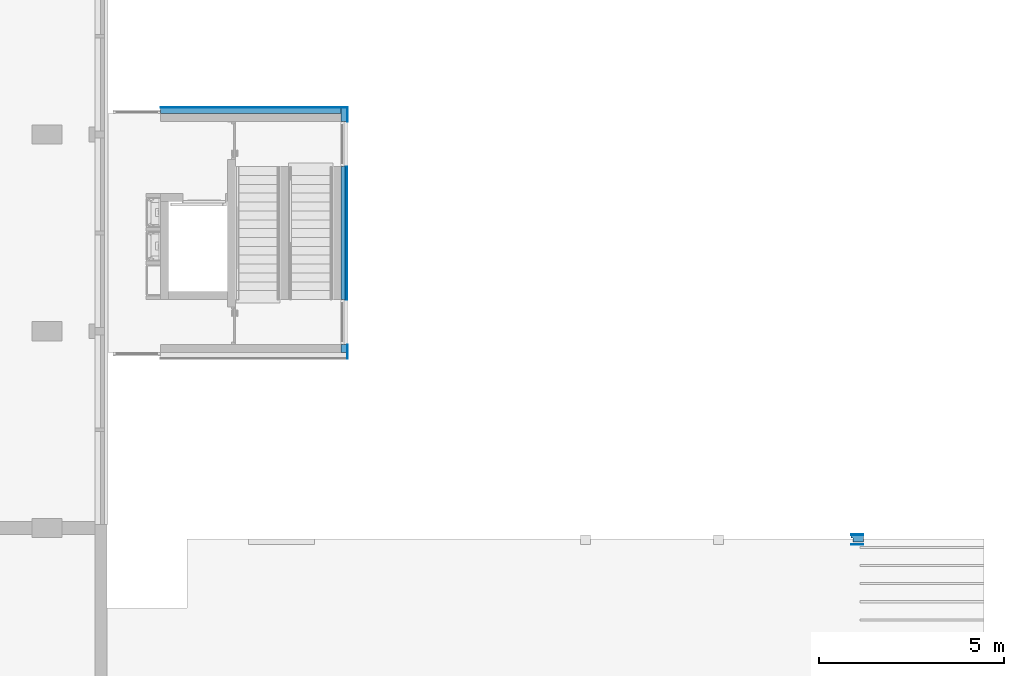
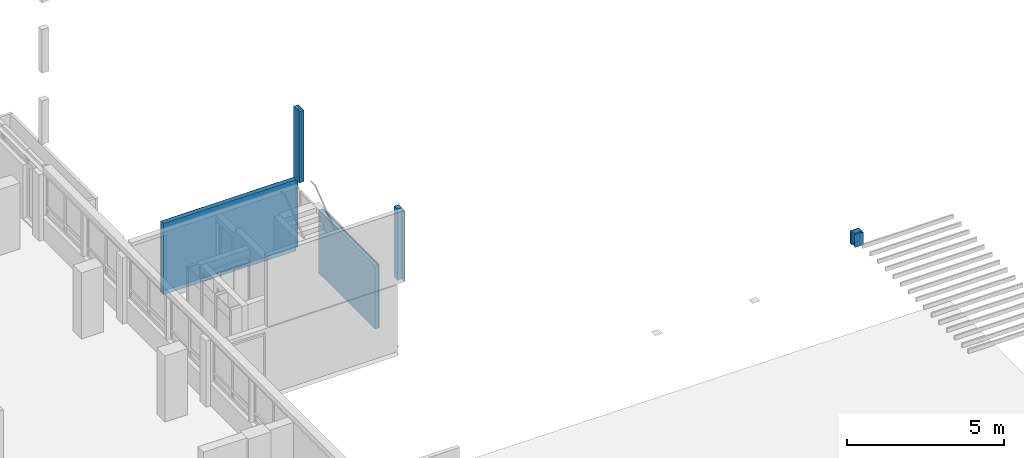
# One storey, part 15 of 22: 17 building element parts, 5 elements without a shape of their own.
"""IFC2X3 building model written with IfcOpenShell, lengths in millimetres."""

from ifc_helpers import new_model, entity, si_unit, converted_unit, derived_unit, money_unit, direction, frame, origin_with_axes, place, context, subcontext, project, spatial, faceted_brep, material, type_object, element, aggregate, save


model = new_model("IFC2X3")

# Units and contexts
model_context = context("Model", 3, precision=0.01, world=origin_with_axes(), true_north=direction((0.0, 1.0)))
body_context = subcontext(model_context, "Body", "Model", "MODEL_VIEW")
ifc_project = project(units=[si_unit("LENGTHUNIT", "METRE", prefix="MILLI"), si_unit("AREAUNIT", "SQUARE_METRE"), si_unit("VOLUMEUNIT", "CUBIC_METRE"), converted_unit("PLANEANGLEUNIT", "DEGREE", entity("IfcPlaneAngleMeasure", 0.0174532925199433), si_unit("PLANEANGLEUNIT", "RADIAN"), dimensions=[0, 0, 0, 0, 0, 0, 0]), money_unit("EUR"), converted_unit("TIMEUNIT", "Year", entity("IfcTimeMeasure", 31557600.0), si_unit("TIMEUNIT", "SECOND"), dimensions=[0, 0, 1, 0, 0, 0, 0]), si_unit("MASSUNIT", "GRAM", prefix="KILO"), si_unit("THERMODYNAMICTEMPERATUREUNIT", "DEGREE_CELSIUS"), si_unit("LUMINOUSINTENSITYUNIT", "LUMEN"), si_unit("ENERGYUNIT", "JOULE", prefix="MEGA"), derived_unit("THERMALCONDUCTANCEUNIT", [(si_unit("POWERUNIT", "WATT"), 1), (si_unit("LENGTHUNIT", "METRE"), -1), (si_unit("THERMODYNAMICTEMPERATUREUNIT", "KELVIN"), -1)]), derived_unit("SPECIFICHEATCAPACITYUNIT", [(si_unit("ENERGYUNIT", "JOULE"), 1), (si_unit("MASSUNIT", "GRAM", prefix="KILO"), -1), (si_unit("THERMODYNAMICTEMPERATUREUNIT", "KELVIN"), -1)]), derived_unit("MASSDENSITYUNIT", [(si_unit("MASSUNIT", "GRAM", prefix="KILO"), 1), (si_unit("VOLUMEUNIT", "CUBIC_METRE"), -1)])], contexts=[model_context])

# Site, building, storey
site_placement = place(None, origin_with_axes())
site = spatial("IfcSite", under=ifc_project, at=site_placement, Name="Site", CompositionType="ELEMENT")
building_placement = place(site_placement, origin_with_axes())
building = spatial("IfcBuilding", under=site, at=building_placement, Name="Naam gebouw", CompositionType="ELEMENT")
storey_placement = place(building_placement, frame((0.0, 0.0, 8690.0), z_axis=(0.0, 0.0, 1.0), x_axis=(1.0, 0.0, 0.0)))
storey = spatial("IfcBuildingStorey", under=building, at=storey_placement, Name="2e verdieping V", CompositionType="ELEMENT", Elevation=8690.0)

# Wall, building element parts
wall_type_1 = type_object("IfcWallType", Name="Basic Wall:41_WA_houten delen vert trappenhuis", PredefinedType="STANDARD")
wall_1_placement = place(storey_placement, frame((36664.0000000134, 34145.91242629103, 0.0), z_axis=(0.0, 0.0, 1.0), x_axis=(0.0, 1.0, 0.0)))
wall_1 = element("IfcWall", 1, at=wall_1_placement, inside=storey, type_object=wall_type_1, Name="Basic Wall:41_WA_houten delen vert trappenhuis")
ifc_material_1 = material(Name="luchtspouw")
building_element_part_1_placement = place(wall_1_placement, origin_with_axes())
building_element_part_1 = element("IfcBuildingElementPart", 2, at=building_element_part_1_placement, material=ifc_material_1, Name="luchtspouw", context=body_context, shape_type="Brep", body=[
    faceted_brep([(3599.999999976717, -44.00000000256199, 0.0), (3599.999999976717, -66.00000000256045, 0.0), (0.0, -66.00000000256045, 0.0), (0.0, -44.00000000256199, 0.0), (3599.999999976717, -44.00000000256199, 2470.0), (3599.999999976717, -66.00000000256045, 2470.0), (0.0, -66.00000000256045, 2470.0), (0.0, -44.00000000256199, 2470.0)], [[[0, 1, 2, 3]], [[0, 4, 5, 1]], [[1, 5, 6, 2]], [[3, 2, 6, 7]], [[4, 0, 3, 7]], [[5, 4, 7, 6]]]),
])
building_element_part_2_placement = place(wall_1_placement, origin_with_axes())
building_element_part_2 = element("IfcBuildingElementPart", 3, at=building_element_part_2_placement, material=ifc_material_1, Name="luchtspouw", context=body_context, shape_type="Brep", body=[
    faceted_brep([(3599.999999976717, -16.0000000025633, 0.0), (3599.999999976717, -44.00000000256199, 0.0), (0.0, -44.00000000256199, 0.0), (0.0, -16.0000000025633, 0.0), (3599.999999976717, -16.0000000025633, 2470.0), (3599.999999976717, -44.00000000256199, 2470.0), (0.0, -44.00000000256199, 2470.0), (0.0, -16.0000000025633, 2470.0)], [[[0, 1, 2, 3]], [[0, 4, 5, 1]], [[1, 5, 6, 2]], [[3, 2, 6, 7]], [[4, 0, 3, 7]], [[5, 4, 7, 6]]]),
])
ifc_material_2 = material(Name="Houten delen vert")
building_element_part_3_placement = place(wall_1_placement, origin_with_axes())
building_element_part_3 = element("IfcBuildingElementPart", 4, at=building_element_part_3_placement, material=ifc_material_2, Name="Houten delen vert", context=body_context, shape_type="Brep", body=[
    faceted_brep([(3599.999999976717, -66.00000000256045, 0.0), (3599.999999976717, -84.00000000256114, 0.0), (0.0, -84.00000000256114, 0.0), (0.0, -66.00000000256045, 0.0), (3599.999999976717, -66.00000000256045, 2470.0), (3599.999999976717, -84.00000000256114, 2470.0), (0.0, -84.00000000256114, 2470.0), (0.0, -66.00000000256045, 2470.0)], [[[0, 1, 2, 3]], [[0, 4, 5, 1]], [[1, 5, 6, 2]], [[3, 2, 6, 7]], [[4, 0, 3, 7]], [[5, 4, 7, 6]]]),
])
ifc_material_3 = material(Name="isolatie")
building_element_part_4_placement = place(wall_1_placement, origin_with_axes())
building_element_part_4 = element("IfcBuildingElementPart", 5, at=building_element_part_4_placement, material=ifc_material_3, Name="isolatie", context=body_context, shape_type="Brep", body=[
    faceted_brep([(3599.999999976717, 83.99999999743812, 0.0), (3599.999999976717, -16.0000000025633, 0.0), (0.0, -16.0000000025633, 0.0), (0.0, 83.99999999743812, 0.0), (3599.999999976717, 83.99999999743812, 2470.0), (3599.999999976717, -16.0000000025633, 2470.0), (0.0, -16.0000000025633, 2470.0), (0.0, 83.99999999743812, 2470.0)], [[[0, 1, 2, 3]], [[0, 4, 5, 1]], [[1, 5, 6, 2]], [[3, 2, 6, 7]], [[4, 0, 3, 7]], [[5, 4, 7, 6]]]),
])
aggregate(wall_1, [building_element_part_1, building_element_part_2, building_element_part_3, building_element_part_4])

wall_type_2 = type_object("IfcWallType", Name="Basic Wall:41_WA_stucwerk op iso 170mm", PredefinedType="STANDARD")
wall_2_placement = place(storey_placement, frame((36665.50000005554, 39265.41242626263, 2770.00000000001), z_axis=(0.0, 0.0, 1.0), x_axis=(0.0, -1.0, 0.0)))
wall_2 = element("IfcWall", 6, at=wall_2_placement, inside=storey, type_object=wall_type_2, Name="Basic Wall:41_WA_stucwerk op iso 170mm")
ifc_material_4 = material(Name="stucwerk - gevel gebouw V RAL 7044")
building_element_part_5_placement = place(wall_2_placement, origin_with_axes())
building_element_part_5 = element("IfcBuildingElementPart", 7, at=building_element_part_5_placement, material=ifc_material_4, Name="stucwerk - gevel gebouw V RAL 7044", context=body_context, shape_type="Brep", body=[
    faceted_brep([(-84.5000000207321, 84.49999994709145, 0.0), (299.4999999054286, 84.49999998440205, 0.0), (299.4999999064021, 74.49999998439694, 0.0), (-84.50000001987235, 74.49999994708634, 0.0), (-84.5000000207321, 84.49999994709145, 2770.000000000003), (299.4999999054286, 84.49999998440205, 2770.000000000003), (299.4999999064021, 74.49999998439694, 2770.000000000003), (-84.50000001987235, 74.49999994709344, 2770.000000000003)], [[[0, 1, 2, 3]], [[4, 5, 1, 0]], [[2, 1, 5, 6]], [[3, 2, 6, 7]], [[4, 0, 3, 7]], [[7, 6, 5, 4]]]),
])
ifc_material_5 = material(Name="Verflaag ral 7044  Zijdengrijs Isostuc")
building_element_part_6_placement = place(wall_2_placement, origin_with_axes())
building_element_part_6 = element("IfcBuildingElementPart", 8, at=building_element_part_6_placement, material=ifc_material_5, Name="Verflaag ral 7044  Zijdengrijs Isostuc", context=body_context, shape_type="Brep", body=[
    faceted_brep([(-85.50000002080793, 85.49999994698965, 0.0), (299.4999999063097, 85.49999998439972, 0.0), (299.4999999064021, 84.49999998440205, 0.0), (-85.50000002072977, 84.49999994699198, 0.0), (-85.50000002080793, 85.49999994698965, 2770.000000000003), (299.4999999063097, 85.49999998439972, 2770.000000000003), (299.4999999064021, 84.49999998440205, 2770.000000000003), (-85.50000002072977, 84.49999994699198, 2770.000000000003)], [[[0, 1, 2, 3]], [[4, 5, 1, 0]], [[2, 1, 5, 6]], [[3, 2, 6, 7]], [[4, 0, 3, 7]], [[7, 6, 5, 4]]]),
])
ifc_material_6 = material(Name="isolatie_080_1-100")
building_element_part_7_placement = place(wall_2_placement, origin_with_axes())
building_element_part_7 = element("IfcBuildingElementPart", 9, at=building_element_part_7_placement, material=ifc_material_6, Name="isolatie_080_1-100", context=body_context, shape_type="Brep", body=[
    faceted_brep([(-74.50000001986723, 74.49999994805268, 0.0), (299.4999998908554, 74.49999998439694, 0.0), (299.4999999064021, -85.50000001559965, 0.0), (-74.50000000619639, -85.50000005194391, 0.0), (-74.50000001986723, 74.49999994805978, 2770.000000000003), (299.4999998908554, 74.49999998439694, 2770.000000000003), (299.4999999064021, -85.50000001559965, 2770.000000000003), (-74.50000000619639, -85.50000005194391, 2770.000000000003)], [[[0, 1, 2, 3]], [[4, 5, 1, 0]], [[2, 1, 5, 6]], [[3, 2, 6, 7]], [[4, 0, 3, 7]], [[7, 6, 5, 4]]]),
])
aggregate(wall_2, [building_element_part_5, building_element_part_6, building_element_part_7])

wall_3_placement = place(storey_placement, frame((36665.50000002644, 32925.91242631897, 2770.00000000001), z_axis=(0.0, 0.0, 1.0), x_axis=(0.0, -1.0, 0.0)))
wall_3 = element("IfcWall", 10, at=wall_3_placement, inside=storey, type_object=wall_type_2, Name="Basic Wall:41_WA_stucwerk op iso 170mm")
building_element_part_8_placement = place(wall_3_placement, origin_with_axes())
building_element_part_8 = element("IfcBuildingElementPart", 11, at=building_element_part_8_placement, material=ifc_material_5, Name="Verflaag ral 7044  Zijdengrijs Isostuc", context=body_context, shape_type="Brep", body=[
    faceted_brep([(384.0000000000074, 85.50000005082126, 0.0), (384.000000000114, 84.50000005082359, 0.0), (-8.213874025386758e-09, 84.50000001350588, 0.0), (-8.306244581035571e-09, 85.50000001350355, 0.0), (384.0000000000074, 85.50000005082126, 2770.000000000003), (384.000000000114, 84.50000005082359, 2770.000000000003), (-8.213874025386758e-09, 84.50000001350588, 2770.000000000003), (-8.306244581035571e-09, 85.50000001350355, 2770.000000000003)], [[[0, 1, 2, 3]], [[1, 0, 4, 5]], [[1, 5, 6, 2]], [[7, 3, 2, 6]], [[4, 0, 3, 7]], [[5, 4, 7, 6]]]),
])
building_element_part_9_placement = place(wall_3_placement, origin_with_axes())
building_element_part_9 = element("IfcBuildingElementPart", 12, at=building_element_part_9_placement, material=ifc_material_4, Name="stucwerk - gevel gebouw V RAL 7044", context=body_context, shape_type="Brep", body=[
    faceted_brep([(374.0000000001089, 84.50000004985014, 0.0), (374.0000000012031, 74.50000004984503, 0.0), (-7.240430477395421e-09, 74.50000001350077, 0.0), (-8.213874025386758e-09, 84.50000001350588, 0.0), (374.0000000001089, 84.50000004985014, 2770.000000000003), (374.0000000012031, 74.50000004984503, 2770.000000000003), (-7.240430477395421e-09, 74.50000001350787, 2770.000000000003), (-8.213874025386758e-09, 84.50000001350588, 2770.000000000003)], [[[0, 1, 2, 3]], [[1, 0, 4, 5]], [[1, 5, 6, 2]], [[7, 3, 2, 6]], [[4, 0, 3, 7]], [[5, 4, 7, 6]]]),
])
building_element_part_10_placement = place(wall_3_placement, origin_with_axes())
building_element_part_10 = element("IfcBuildingElementPart", 13, at=building_element_part_10_placement, material=ifc_material_6, Name="isolatie_080_1-100", context=body_context, shape_type="Brep", body=[
    faceted_brep([(214.0000000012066, 74.50000003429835, 0.0), (214.000000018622, -85.49999996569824, 0.0), (8.306244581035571e-09, -85.49999998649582, 0.0), (-7.240430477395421e-09, 74.50000001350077, 0.0), (214.0000000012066, 74.50000003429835, 2770.000000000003), (214.000000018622, -85.49999996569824, 2770.000000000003), (8.306244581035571e-09, -85.49999998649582, 2770.000000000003), (-7.240430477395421e-09, 74.50000001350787, 2770.000000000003)], [[[0, 1, 2, 3]], [[1, 0, 4, 5]], [[1, 5, 6, 2]], [[7, 3, 2, 6]], [[4, 0, 3, 7]], [[5, 4, 7, 6]]]),
])
aggregate(wall_3, [building_element_part_8, building_element_part_9, building_element_part_10])

wall_4_placement = place(storey_placement, frame((31685.01028263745, 39265.41242632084, 0.0), z_axis=(0.0, 0.0, 1.0), x_axis=(1.0, 0.0, 0.0)))
wall_4 = element("IfcWall", 14, at=wall_4_placement, inside=storey, type_object=wall_type_2, Name="Basic Wall:41_WA_stucwerk op iso 170mm")
building_element_part_11_placement = place(wall_4_placement, origin_with_axes())
building_element_part_11 = element("IfcBuildingElementPart", 15, at=building_element_part_11_placement, material=ifc_material_5, Name="Verflaag ral 7044  Zijdengrijs Isostuc", context=body_context, shape_type="Brep", body=[
    faceted_brep([(5064.989717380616, 84.5000000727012, 0.0), (-9.876544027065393e-10, 84.50000001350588, 0.0), (-9.983125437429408e-10, 85.50000001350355, 0.0), (5064.989717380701, 85.50000007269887, 0.0), (5064.989717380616, 84.5000000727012, 2770.000000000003), (-9.876544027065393e-10, 84.50000001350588, 2770.000000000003), (-9.983125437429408e-10, 85.50000001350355, 2770.000000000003), (5064.989717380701, 85.50000007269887, 2770.000000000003)], [[[0, 1, 2, 3]], [[4, 5, 1, 0]], [[2, 1, 5, 6]], [[3, 2, 6, 7]], [[3, 7, 4, 0]], [[7, 6, 5, 4]]]),
])
building_element_part_12_placement = place(wall_4_placement, origin_with_axes())
building_element_part_12 = element("IfcBuildingElementPart", 16, at=building_element_part_12_placement, material=ifc_material_4, Name="stucwerk - gevel gebouw V RAL 7044", context=body_context, shape_type="Brep", body=[
    faceted_brep([(5054.989717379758, 74.5000000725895, 0.0), (-8.704148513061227e-10, 74.50000001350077, 0.0), (-9.876544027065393e-10, 84.50000001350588, 0.0), (5054.989717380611, 84.50000007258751, 0.0), (5054.989717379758, 74.5000000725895, 2770.000000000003), (-8.704148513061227e-10, 74.50000001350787, 2770.000000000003), (-9.876544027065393e-10, 84.50000001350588, 2770.000000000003), (5054.989717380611, 84.50000007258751, 2770.000000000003)], [[[0, 1, 2, 3]], [[4, 5, 1, 0]], [[2, 1, 5, 6]], [[3, 2, 6, 7]], [[3, 7, 4, 0]], [[7, 6, 5, 4]]]),
])
building_element_part_13_placement = place(wall_4_placement, origin_with_axes())
building_element_part_13 = element("IfcBuildingElementPart", 17, at=building_element_part_13_placement, material=ifc_material_6, Name="isolatie_080_1-100", context=body_context, shape_type="Brep", body=[
    faceted_brep([(4894.989717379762, 74.50000007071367, 0.0), (4894.989717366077, -85.49999992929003, 0.0), (9.983125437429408e-10, -85.49999998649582, 0.0), (-8.704148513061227e-10, 74.50000001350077, 0.0), (4894.989717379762, 74.50000007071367, 2770.000000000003), (4894.989717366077, -85.49999992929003, 2770.000000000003), (9.983125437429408e-10, -85.49999998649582, 2770.000000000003), (-8.704148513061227e-10, 74.50000001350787, 2770.000000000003)], [[[0, 1, 2, 3]], [[1, 0, 4, 5]], [[1, 5, 6, 2]], [[7, 3, 2, 6]], [[4, 0, 3, 7]], [[5, 4, 7, 6]]]),
])
aggregate(wall_4, [building_element_part_11, building_element_part_12, building_element_part_13])

wall_type_3 = type_object("IfcWallType", Name="Gevel decowall-hsb 278", PredefinedType="NOTDEFINED")
wall_5_placement = place(storey_placement, frame((50729.99999999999, 27505.91242510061, 2360.000000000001), z_axis=(0.0, 0.0, 1.0), x_axis=(-1.0, 0.0, 0.0)))
wall_5 = element("IfcWall", 18, at=wall_5_placement, inside=storey, type_object=wall_type_3, Name="_Wand-x")
ifc_material_7 = material(Name="Metaal - Staal AFW")
building_element_part_14_placement = place(wall_5_placement, origin_with_axes())
building_element_part_14 = element("IfcBuildingElementPart", 19, at=building_element_part_14_placement, material=ifc_material_7, Name="Metaal - Staal AFW", context=body_context, shape_type="Brep", body=[
    faceted_brep([(329.9999999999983, -4.000000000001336, 500.0), (329.9999999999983, 0.0, 500.0), (0.0, 0.0, 500.0), (0.0, -4.000000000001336, 500.0), (329.9999999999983, -4.000000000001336, 0.0), (329.9999999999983, 0.0, 0.0), (0.0, 0.0, 0.0), (0.0, -4.000000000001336, 0.0)], [[[0, 1, 2, 3]], [[0, 4, 5, 1]], [[1, 5, 6, 2]], [[3, 2, 6, 7]], [[4, 0, 3, 7]], [[5, 4, 7, 6]]]),
])
ifc_material_8 = material(Name="Isolatie - Steenwol zacht")
building_element_part_15_placement = place(wall_5_placement, origin_with_axes())
building_element_part_15 = element("IfcBuildingElementPart", 20, at=building_element_part_15_placement, material=ifc_material_8, Name="Isolatie - Steenwol zacht", context=body_context, shape_type="Brep", body=[
    faceted_brep([(283.9999999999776, -175.9999999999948, 500.0), (283.9999999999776, -70.00000000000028, 500.0), (0.0, -70.00000000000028, 500.0), (0.0, -248.0000000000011, 500.0), (329.9999999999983, -248.0000000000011, 500.0), (329.9999999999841, -175.9999999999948, 500.0), (283.9999999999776, -175.9999999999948, 0.0), (283.9999999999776, -70.00000000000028, 0.0), (0.0, -70.00000000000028, 0.0), (0.0, -248.0000000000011, 0.0), (329.9999999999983, -248.0000000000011, 0.0), (329.9999999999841, -175.9999999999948, 0.0)], [[[0, 1, 2, 3, 4, 5]], [[1, 0, 6, 7]], [[1, 7, 8, 2]], [[9, 3, 2, 8]], [[9, 10, 4, 3]], [[11, 5, 4, 10]], [[0, 5, 11, 6]], [[6, 11, 10, 9, 8, 7]]]),
])
ifc_material_9 = material(Name="Hout - Multiplex")
building_element_part_16_placement = place(wall_5_placement, origin_with_axes())
building_element_part_16 = element("IfcBuildingElementPart", 21, at=building_element_part_16_placement, material=ifc_material_9, Name="Hout - Multiplex", context=body_context, shape_type="Brep", body=[
    faceted_brep([(0.0, -265.9999999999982, 500.0), (329.9999999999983, -265.9999999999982, 500.0), (329.9999999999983, -248.0000000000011, 500.0), (0.0, -248.0000000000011, 500.0), (0.0, -266.0000000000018, 0.0), (329.9999999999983, -266.0000000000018, 0.0), (329.9999999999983, -248.0000000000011, 0.0), (0.0, -248.0000000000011, 0.0)], [[[0, 1, 2, 3]], [[4, 5, 1, 0]], [[2, 1, 5, 6]], [[3, 2, 6, 7]], [[4, 0, 3, 7]], [[7, 6, 5, 4]]]),
])
ifc_material_10 = material(Name="Gipsplaat")
building_element_part_17_placement = place(wall_5_placement, origin_with_axes())
building_element_part_17 = element("IfcBuildingElementPart", 22, at=building_element_part_17_placement, material=ifc_material_10, Name="Gipsplaat", context=body_context, shape_type="Brep", body=[
    faceted_brep([(0.0, -273.9999999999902, 0.0), (0.0, -273.9999999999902, 500.0), (0.0, -265.9999999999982, 500.0), (0.0, -266.0000000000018, 0.0), (329.9999999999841, -273.9999999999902, 500.0), (329.9999999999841, -273.9999999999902, 0.0), (329.9999999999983, -265.9999999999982, 500.0), (329.9999999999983, -266.0000000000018, 0.0)], [[[0, 1, 2, 3]], [[4, 1, 0, 5]], [[1, 4, 6, 2]], [[2, 6, 7, 3]], [[5, 0, 3, 7]], [[4, 5, 7, 6]]]),
])
aggregate(wall_5, [building_element_part_14, building_element_part_15, building_element_part_16, building_element_part_17])

save(model, "model.ifc")
